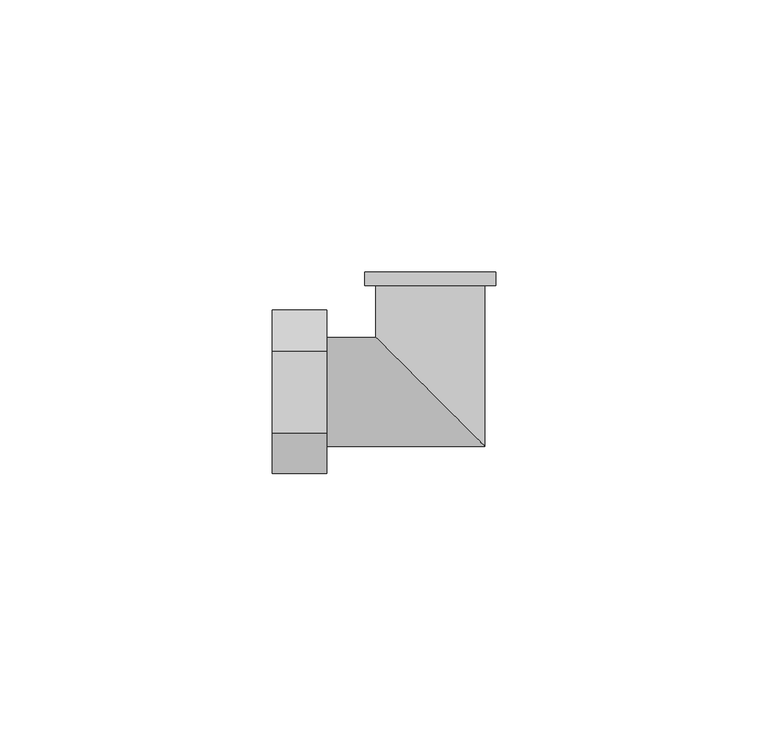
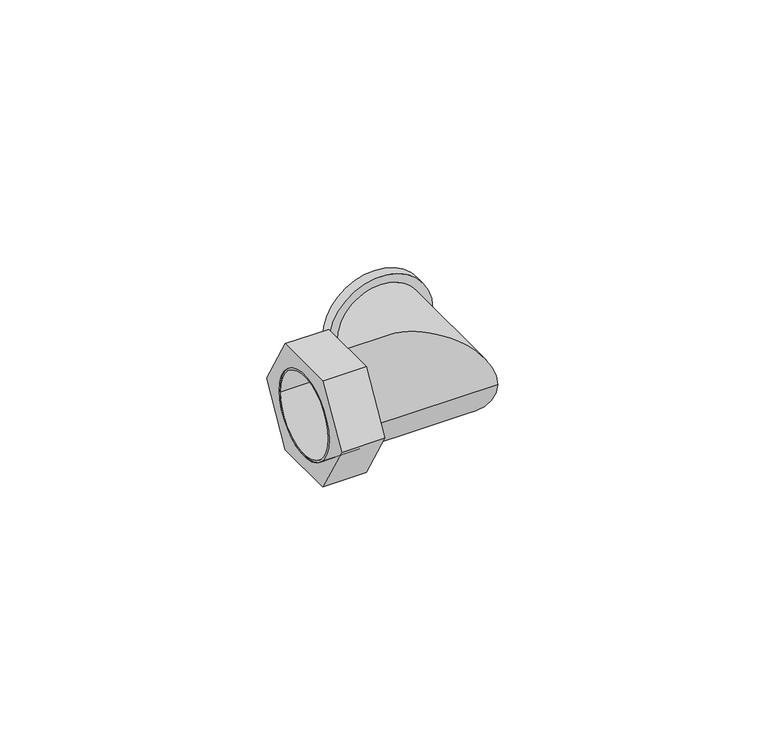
"""IFC4 building model written with IfcOpenShell, lengths in millimetres: pipe fitting geometry, БИР ПЕКС_НПР_Угольник_Гайка накидная : Угольник с накидной гайкой."""

import ifcopenshell
import ifcopenshell.guid

model = None  # the IFC model being written
_history = None  # IfcOwnerHistory: only IFC2X3 demands one
_inside = {}  # id of a spatial element -> (the spatial element, [elements in it])
_under = {}  # id of a project, library or spatial element -> (it, [spatial elements below it])
_declared = {}  # id of a project -> (the project, [libraries it declares])
_typed = {}  # id of a type object -> (the type object, [elements of that type])
_made_of = {}  # id of a material, layer set ... -> (it, [elements and type objects made of it])


def new_model(schema):
    """Start an empty IFC model of exactly this schema.

    Asked for "IFC4X3", IfcOpenShell would pick the latest addendum, in which some entities
    have other attributes; the version numbers below select the first issue.
    IFC2X3 requires an IfcOwnerHistory on every rooted entity: one is made here for all.
    """
    global model, _history
    if schema == "IFC4X3":
        model = ifcopenshell.file(schema_version=(4, 3, 0, 0))
    else:
        model = ifcopenshell.file(schema=schema)
    _inside.clear()
    _under.clear()
    _declared.clear()
    _typed.clear()
    _made_of.clear()
    _history = None
    if model.schema == "IFC2X3":
        org = make("IfcOrganization", Name="unknown")
        user = make(
            "IfcPersonAndOrganization",
            ThePerson=make("IfcPerson", FamilyName="unknown"),
            TheOrganization=org,
        )
        app = make(
            "IfcApplication",
            ApplicationDeveloper=org,
            Version="unknown",
            ApplicationFullName="unknown",
            ApplicationIdentifier="unknown",
        )
        _history = make(
            "IfcOwnerHistory",
            OwningUser=user,
            OwningApplication=app,
            ChangeAction="ADDED",
            CreationDate=0,
        )
    return model


def make(cls, **values):
    """One entity of the class cls with the attributes given. An attribute that is None is left unset."""
    return model.create_entity(
        cls, **{name: value for name, value in values.items() if value is not None}
    )


def rooted(cls, **values):
    """An entity with a GlobalId (a new one), such as an element, a storey or a relation."""
    return make(cls, GlobalId=ifcopenshell.guid.new(), OwnerHistory=_history, **values)


def si_unit(unit_type, name, prefix=None):
    """IfcSIUnit, for example si_unit("LENGTHUNIT", "METRE", prefix="MILLI")."""
    return make("IfcSIUnit", UnitType=unit_type, Prefix=prefix, Name=name)


def assignment(units):
    """IfcUnitAssignment: the units of a project."""
    return None if units is None else make("IfcUnitAssignment", Units=units)


def point(xyz):
    """IfcCartesianPoint."""
    return None if xyz is None else make("IfcCartesianPoint", Coordinates=xyz)


def direction(xyz):
    """IfcDirection."""
    return None if xyz is None else make("IfcDirection", DirectionRatios=xyz)


def frame(location, z_axis=None, x_axis=None):
    """IfcAxis2Placement3D, a coordinate frame: its origin and axes. An axis left out is left unset."""
    return make(
        "IfcAxis2Placement3D",
        Location=point(location),
        Axis=direction(z_axis),
        RefDirection=direction(x_axis),
    )


def frame_2d(location, x_axis=None):
    """IfcAxis2Placement2D, a coordinate frame in the plane: its origin and x axis."""
    return make(
        "IfcAxis2Placement2D", Location=point(location), RefDirection=direction(x_axis)
    )


def origin():
    """The frame at (0, 0, 0) with its axes left unset."""
    return frame((0.0, 0.0, 0.0))


def origin_2d():
    """The frame at (0, 0) in the plane with its x axis left unset."""
    return frame_2d((0.0, 0.0))


def place(relative_to, where):
    """IfcLocalPlacement: puts the frame where relative to a parent placement (None: the world)."""
    return make(
        "IfcLocalPlacement", PlacementRelTo=relative_to, RelativePlacement=where
    )


def context(
    kind, dimensions, precision=None, world=None, true_north=None, identifier=None
):
    """IfcGeometricRepresentationContext, for example the 3D "Model" context."""
    return make(
        "IfcGeometricRepresentationContext",
        ContextIdentifier=identifier,
        ContextType=kind,
        CoordinateSpaceDimension=dimensions,
        Precision=precision,
        WorldCoordinateSystem=world,
        TrueNorth=true_north,
    )


def project(units=None, contexts=None):
    """IfcProject with its units and contexts."""
    return rooted(
        "IfcProject",
        Name="project",
        RepresentationContexts=contexts,
        UnitsInContext=assignment(units),
    )


def spatial(cls, under=None, at=None, **own):
    """A site, building, storey or space (cls), placed at a placement, below another one or the project."""
    s = rooted(cls, ObjectPlacement=at, **own)
    if under is not None:
        _under.setdefault(under.id(), (under, []))[1].append(s)
    return s


def polyline(points):
    """IfcPolyline through the points."""
    return make("IfcPolyline", Points=[point(p) for p in points])


def circle_curve(where, radius):
    """IfcCircle in the frame where."""
    return make("IfcCircle", Position=where, Radius=radius)


def ellipse_curve(where, semi_axis1, semi_axis2):
    """IfcEllipse in the frame where."""
    return make(
        "IfcEllipse", Position=where, SemiAxis1=semi_axis1, SemiAxis2=semi_axis2
    )


def trimmed(basis, trim1, trim2, sense, master):
    """IfcTrimmedCurve: the piece of a basis curve between two trims."""
    return make(
        "IfcTrimmedCurve",
        BasisCurve=basis,
        Trim1=trim1,
        Trim2=trim2,
        SenseAgreement=sense,
        MasterRepresentation=master,
    )


def segment(curve, same_sense, transition):
    """IfcCompositeCurveSegment."""
    return make(
        "IfcCompositeCurveSegment",
        Transition=transition,
        SameSense=same_sense,
        ParentCurve=curve,
    )


def composite_curve(segments, self_intersect=None):
    """IfcCompositeCurve: segments joined end to end."""
    return make("IfcCompositeCurve", Segments=segments, SelfIntersect=self_intersect)


def outline(outer, holes=None, kind="AREA"):
    """IfcArbitraryClosedProfileDef: a profile drawn as a closed curve; with holes, ...WithVoids."""
    if holes is None:
        return make("IfcArbitraryClosedProfileDef", ProfileType=kind, OuterCurve=outer)
    return make(
        "IfcArbitraryProfileDefWithVoids",
        ProfileType=kind,
        OuterCurve=outer,
        InnerCurves=holes,
    )


def extrude(swept, where, along, depth):
    """IfcExtrudedAreaSolid: the profile swept, set in the frame where, extruded along a direction by depth."""
    return make(
        "IfcExtrudedAreaSolid",
        SweptArea=swept,
        Position=where,
        ExtrudedDirection=direction(along),
        Depth=depth,
    )


def shape(context_of_items, identifier, shape_type, items):
    """IfcShapeRepresentation: the items that make up one representation, for example the "Body"."""
    return make(
        "IfcShapeRepresentation",
        ContextOfItems=context_of_items,
        RepresentationIdentifier=identifier,
        RepresentationType=shape_type,
        Items=items,
    )


def source(mapping_origin, context_of_items, identifier, shape_type, items):
    """IfcRepresentationMap: a shape defined once, which mapped items show again and again."""
    return make(
        "IfcRepresentationMap",
        MappingOrigin=mapping_origin,
        MappedRepresentation=shape(context_of_items, identifier, shape_type, items),
    )


def transform(
    local_origin,
    x_axis=None,
    y_axis=None,
    z_axis=None,
    scale=None,
    scale2=None,
    scale3=None,
    uniform=True,
):
    """IfcCartesianTransformationOperator3D, or its non-uniform kind. x_axis, y_axis, z_axis: its Axis1, 2, 3."""
    if uniform:
        return make(
            "IfcCartesianTransformationOperator3D",
            Axis1=direction(x_axis),
            Axis2=direction(y_axis),
            LocalOrigin=point(local_origin),
            Scale=scale,
            Axis3=direction(z_axis),
        )
    return make(
        "IfcCartesianTransformationOperator3DnonUniform",
        Axis1=direction(x_axis),
        Axis2=direction(y_axis),
        LocalOrigin=point(local_origin),
        Scale=scale,
        Axis3=direction(z_axis),
        Scale2=scale2,
        Scale3=scale3,
    )


def mapped(mapping_source, mapping_target):
    """IfcMappedItem: shows the shape of a source again, moved by a transform."""
    return make(
        "IfcMappedItem", MappingSource=mapping_source, MappingTarget=mapping_target
    )


def made_of(thing, what):
    """Note that an element or type object is made of a material, layer set ...; save() writes the relation."""
    if what is not None:
        _made_of.setdefault(what.id(), (what, []))[1].append(thing)
    return thing


def element(
    cls,
    number,
    at=None,
    inside=None,
    cuts=None,
    type_object=None,
    material=None,
    context=None,
    identifier="Body",
    shape_type=None,
    held_by="IfcProductDefinitionShape",
    body=None,
    shapes=None,
    **own,
):
    """One element of the class cls, such as IfcWall. Its Tag is "e" and its number.

    at: its placement. inside: the storey or other place that contains it. cuts: it is an
    opening in that element (IfcRelVoidsElement). A single representation is given by context,
    identifier, shape_type and body (its items); several are given by shapes. held_by: the class
    of the entity that holds the representations. save() writes the other relations.
    """
    e = rooted(cls, Tag="e%d" % number, ObjectPlacement=at, **own)
    if body is not None:
        shapes = [shape(context, identifier, shape_type, body)]
    if shapes is not None:
        e.Representation = make(held_by, Representations=shapes)
    if inside is not None:
        _inside.setdefault(inside.id(), (inside, []))[1].append(e)
    if cuts is not None:
        rooted(
            "IfcRelVoidsElement", RelatingBuildingElement=cuts, RelatedOpeningElement=e
        )
    if type_object is not None:
        _typed.setdefault(type_object.id(), (type_object, []))[1].append(e)
    return made_of(e, material)


def aggregate(whole, parts):
    """IfcRelAggregates: a whole, such as a stair, and the parts it consists of."""
    return rooted("IfcRelAggregates", RelatingObject=whole, RelatedObjects=parts)


def save(model, path):
    """Write the relations noted so far, then the file.

    IfcRelAggregates (storeys below a building ...), IfcRelContainedInSpatialStructure (elements
    in a storey), IfcRelDefinesByType, IfcRelAssociatesMaterial and IfcRelDeclares: one each for
    every whole, place, type object, material and project.
    """
    for whole, parts in _under.values():
        aggregate(whole, parts)
    for where, things in _inside.values():
        rooted(
            "IfcRelContainedInSpatialStructure",
            RelatedElements=things,
            RelatingStructure=where,
        )
    for kind, things in _typed.values():
        rooted("IfcRelDefinesByType", RelatedObjects=things, RelatingType=kind)
    for what, things in _made_of.values():
        rooted("IfcRelAssociatesMaterial", RelatedObjects=things, RelatingMaterial=what)
    for by, libraries in _declared.values():
        rooted("IfcRelDeclares", RelatingContext=by, RelatedDefinitions=libraries)
    model.write(path)


def plane_surface(at):
    """IfcPlane: the flat surface through the origin of the frame at, square to its z axis."""
    return make("IfcPlane", Position=at)


def cylinder_surface(at, radius):
    """IfcCylindricalSurface: all points at the distance radius from the z axis of the frame at."""
    return make("IfcCylindricalSurface", Position=at, Radius=radius)


def revolved_surface(curve, axis_point, axis_direction):
    """IfcSurfaceOfRevolution: the curve turned about the line through axis_point along axis_direction."""
    return make(
        "IfcSurfaceOfRevolution",
        SweptCurve=make("IfcArbitraryOpenProfileDef", ProfileType="CURVE", Curve=curve),
        AxisPosition=make("IfcAxis1Placement", Location=point(axis_point), Axis=direction(axis_direction)),
    )


def advanced_brep(points, edges, surfaces, faces):
    """IfcAdvancedBrep: a solid bounded by faces that lie on surfaces and meet in shared edges.

    An edge is (start, end): straight between two places in points (the first is 0);
    or (start, end, curve); or (start, end, curve, False) where it runs against its curve.
    A face is (place in surfaces, loops), or (place, loops, False) where it looks against
    its surface's normal. A loop lists edges by number (the first is 1), with a minus sign
    where the edge is run from its end to its start. The first loop is the outer one.
    """
    corners = [point(p) for p in points]
    vertices = [make("IfcVertexPoint", VertexGeometry=c) for c in corners]
    made = []
    for start, end, *more in edges:
        made.append(
            make(
                "IfcEdgeCurve",
                EdgeStart=vertices[start],
                EdgeEnd=vertices[end],
                EdgeGeometry=more[0] if more else make("IfcPolyline", Points=[corners[start], corners[end]]),
                SameSense=more[1] if len(more) > 1 else True,
            )
        )
    hull = []
    for where, loops, *sense in faces:
        bounds = []
        for j, loop in enumerate(loops):
            ring = [make("IfcOrientedEdge", EdgeElement=made[abs(k) - 1], Orientation=k > 0) for k in loop]
            bounds.append(
                make(
                    "IfcFaceOuterBound" if j == 0 else "IfcFaceBound",
                    Bound=make("IfcEdgeLoop", EdgeList=ring),
                    Orientation=True,
                )
            )
        hull.append(make("IfcAdvancedFace", Bounds=bounds, FaceSurface=surfaces[where], SameSense=sense[0] if sense else True))
    return make("IfcAdvancedBrep", Outer=make("IfcClosedShell", CfsFaces=hull))


def pipe_fitting_20898175(model_context):
    return source(origin(), model_context, "Body", "SolidModel", [
        extrude(outline(polyline([(-7.5, -12.9903811), (-15.0, 0.0), (-7.5, 12.9903811), (7.5, 12.9903811), (15.0, 0.0), (7.5, -12.9903811), (-7.5, -12.9903811)]), holes=[composite_curve([segment(trimmed(circle_curve(origin_2d(), 10.0), [point((-10.0, 0.0))], [point((10.0, 0.0))], True, "CARTESIAN"), True, "CONTINUOUS"), segment(trimmed(circle_curve(origin_2d(), 10.0), [point((10.0, 0.0))], [point((-10.0, 0.0))], True, "CARTESIAN"), True, "CONTINUOUS")], self_intersect=False)]), frame((-29.0, 0.0, 0.0), z_axis=(1.0, 0.0, 0.0), x_axis=(0.0, 1.0, 0.0)), (0.0, 0.0, 1.0), 10.0),
        advanced_brep(
        [(-29.0, -10.0, 0.0), (-29.0, 10.0, 0.0), (-29.0, -9.5, 0.0), (-29.0, 9.5, 0.0), (10.0, -10.0, 0.0), (-10.0, 10.0, 0.0), (-12.0, 22.0, 0.0), (12.0, 22.0, 0.0), (9.5, 22.0, 0.0), (-9.5, 22.0, 0.0), (10.0, 19.5, 0.0), (-10.0, 19.5, 0.0), (-12.0, 19.5, 0.0), (12.0, 19.5, 0.0), (9.5, -9.5, 0.0), (-9.5, 9.5, 0.0), (-9.5, 19.5, 0.0), (9.5, 19.5, 0.0)],
        [
            (0, 1, circle_curve(frame((-29.0, 0.0, 0.0), z_axis=(-1.0, 0.0, 0.0), x_axis=(0.0, 1.0, 0.0)), 10.0)),
            (1, 0, circle_curve(frame((-29.0, 0.0, 0.0), z_axis=(-1.0, 0.0, 0.0), x_axis=(0.0, 1.0, 0.0)), 10.0)),
            (2, 3, circle_curve(frame((-29.0, 0.0, 0.0), z_axis=(1.0, 0.0, 0.0), x_axis=(0.0, 1.0, 0.0)), 9.5)),
            (3, 2, circle_curve(frame((-29.0, 0.0, 0.0), z_axis=(1.0, 0.0, 0.0), x_axis=(0.0, 1.0, 0.0)), 9.5)),
            (0, 4),
            (4, 5, ellipse_curve(frame((0.0, 0.0, 0.0), z_axis=(-0.7071067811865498, -0.7071067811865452, 0.0), x_axis=(-0.7071067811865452, 0.7071067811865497, 0.0)), 14.1421356, 10.0)),
            (5, 1),
            (5, 4, ellipse_curve(frame((0.0, 0.0, 0.0), z_axis=(-0.7071067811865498, -0.7071067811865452, 0.0), x_axis=(-0.7071067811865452, 0.7071067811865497, 0.0)), 14.1421356, 10.0)),
            (6, 7, circle_curve(frame((0.0, 22.0, 0.0), z_axis=(0.0, 1.0, 0.0), x_axis=(1.0, 0.0, 0.0)), 12.0)),
            (7, 6, circle_curve(frame((0.0, 22.0, 0.0), z_axis=(0.0, 1.0, 0.0), x_axis=(1.0, 0.0, 0.0)), 12.0)),
            (8, 9, circle_curve(frame((0.0, 22.0, 0.0), z_axis=(0.0, -1.0, 0.0), x_axis=(-1.0, 0.0, 0.0)), 9.5)),
            (9, 8, circle_curve(frame((0.0, 22.0, 0.0), z_axis=(0.0, -1.0, 0.0), x_axis=(-1.0, 0.0, 0.0)), 9.5)),
            (4, 10),
            (10, 11, circle_curve(frame((0.0, 19.5, 0.0), z_axis=(0.0, -1.0, 0.0), x_axis=(-1.0, 0.0, 0.0)), 10.0)),
            (11, 5),
            (11, 10, circle_curve(frame((0.0, 19.5, 0.0), z_axis=(0.0, -1.0, 0.0), x_axis=(-1.0, 0.0, 0.0)), 10.0)),
            (12, 13, circle_curve(frame((0.0, 19.5, 0.0), z_axis=(0.0, -1.0, 0.0), x_axis=(1.0, 0.0, 0.0)), 12.0)),
            (13, 12, circle_curve(frame((0.0, 19.5, 0.0), z_axis=(0.0, -1.0, 0.0), x_axis=(1.0, 0.0, 0.0)), 12.0)),
            (12, 6),
            (7, 13),
            (2, 14),
            (14, 15, ellipse_curve(frame((0.0, 0.0, 0.0), z_axis=(0.7071067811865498, 0.7071067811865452, 0.0), x_axis=(0.7071067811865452, -0.7071067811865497, 0.0)), 13.4350288, 9.5)),
            (15, 3),
            (15, 14, ellipse_curve(frame((0.0, 0.0, 0.0), z_axis=(0.7071067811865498, 0.7071067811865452, 0.0), x_axis=(0.7071067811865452, -0.7071067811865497, 0.0)), 13.4350288, 9.5)),
            (9, 16),
            (16, 15),
            (14, 17),
            (17, 8),
        ],
        [
            plane_surface(frame((-29.0, 0.0, 0.0), z_axis=(-1.0, 0.0, 0.0), x_axis=(0.0, 0.0, 1.0))),
            cylinder_surface(frame((-29.0, 0.0, 0.0), z_axis=(-1.0, 0.0, 0.0), x_axis=(0.0, 1.0, 0.0)), 10.0),
            plane_surface(frame((0.0, 22.0, 0.0), z_axis=(0.0, 1.0, 0.0), x_axis=(0.0, 0.0, 1.0))),
            cylinder_surface(frame((0.0, 0.0, 0.0), z_axis=(0.0, -1.0, 0.0), x_axis=(-1.0, 0.0, 0.0)), 10.0),
            plane_surface(frame((12.0, 19.5, 0.0), z_axis=(0.0, -1.0, 0.0), x_axis=(0.0, 0.0, 1.0))),
            cylinder_surface(frame((0.0, 22.0, 0.0), z_axis=(0.0, -1.0, 0.0), x_axis=(1.0, 0.0, 0.0)), 12.0),
            revolved_surface(polyline([(9.5, 9.5, 0.0), (-29.0, 9.5, 0.0)]), (-29.0, 0.0, 0.0), (1.0, 0.0, 0.0)),
            revolved_surface(polyline([(-9.5, 22.0, 0.0), (-9.5, -9.5, 0.0)]), (0.0, 0.0, 0.0), (0.0, 1.0, 0.0)),
        ],
        [
            (0, [[1, 2], [3, 4]]),
            (1, [[-1, 5, 6, 7]]),
            (1, [[-2, -7, 8, -5]]),
            (2, [[9, 10], [11, 12]]),
            (3, [[-6, 13, 14, 15]]),
            (3, [[-8, -15, 16, -13]]),
            (4, [[17, 18], [-14, -16]]),
            (5, [[-17, 19, -10, 20]]),
            (5, [[-18, -20, -9, -19]]),
            (6, [[-3, 21, 22, 23]]),
            (6, [[-4, -23, 24, -21]]),
            (7, [[-12, 25, 26, -22, 27, 28]]),
            (7, [[-11, -28, -27, -24, -26, -25]]),
        ],
    ),
    ])


if __name__ == "__main__":
    model = new_model("IFC4")
    model_context = context("Model", 3, world=origin())
    ifc_project = project(units=[si_unit("LENGTHUNIT", "METRE", prefix="MILLI")], contexts=[model_context])
    site = spatial("IfcSite", under=ifc_project)
    building = spatial("IfcBuilding", under=site)
    placement = place(None, origin())
    pipe_fitting_shape = pipe_fitting_20898175(model_context)
    element("IfcPipeFitting", 1, ObjectType="БИР ПЕКС_НПР_Угольник_Гайка накидная : Угольник с накидной гайкой", at=placement, inside=building, context=model_context, shape_type="MappedRepresentation", body=[
        mapped(pipe_fitting_shape, transform((0.0, 0.0, 0.0), x_axis=(1.0, 0.0, 0.0), y_axis=(0.0, 1.0, 0.0), z_axis=(0.0, 0.0, 1.0))),
    ])
    save(model, "model.ifc")
